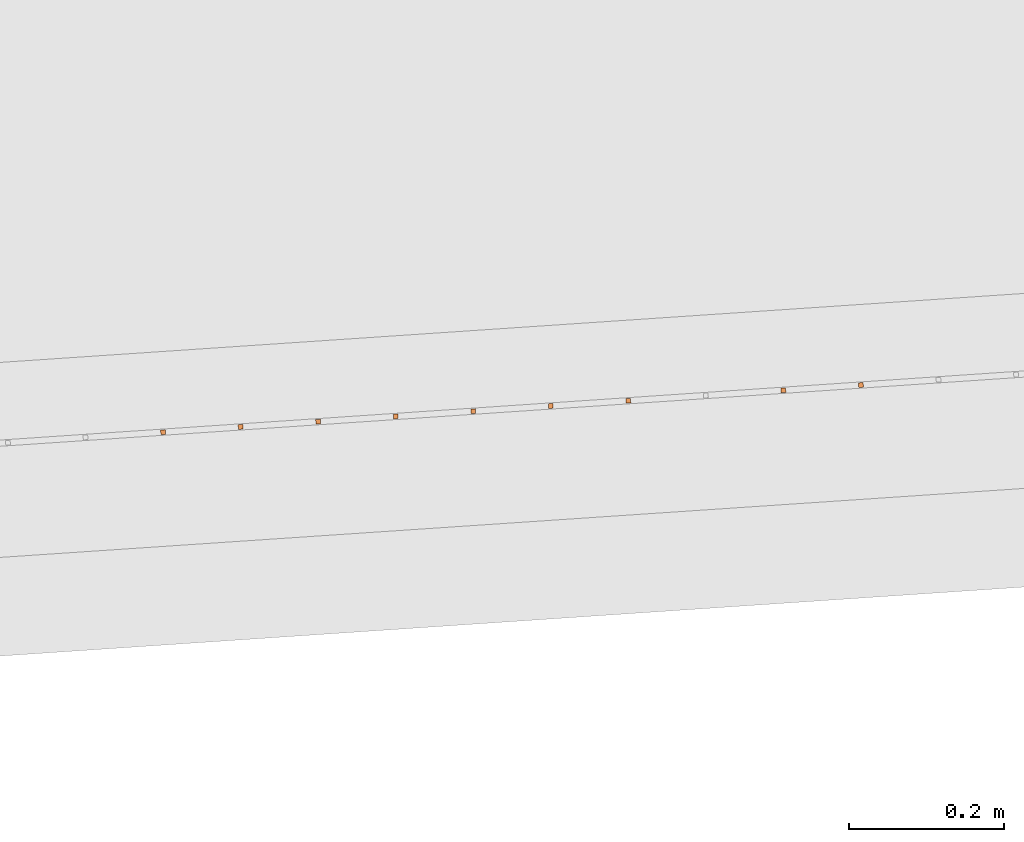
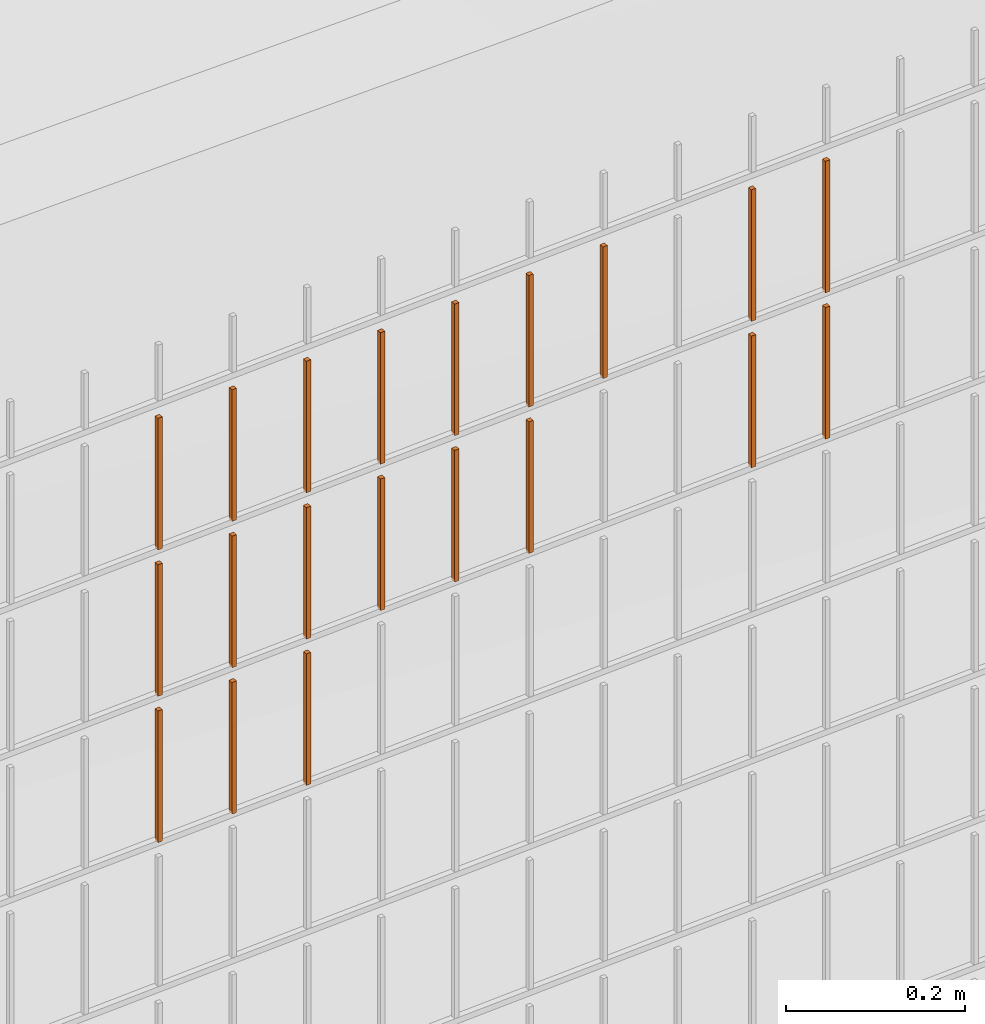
# One storey, part 371 of 1809: 20 proxies, 1 element without a shape of its own.
"""IFC2X3 building model written with IfcOpenShell, lengths in millimetres."""

from ifc_helpers import new_model, entity, si_unit, converted_unit, derived_unit, money_unit, direction, frame, origin_with_axes, place, context, subcontext, project, spatial, faceted_brep, source, transform, mapped, material, type_object, element, aggregate, save


model = new_model("IFC2X3")

# Units and contexts
model_context = context("Model", 3, precision=0.01, world=origin_with_axes(), true_north=direction((0.0, 1.0)))
body_context = subcontext(model_context, "Body", "Model", "MODEL_VIEW")
ifc_project = project(units=[si_unit("LENGTHUNIT", "METRE", prefix="MILLI"), si_unit("AREAUNIT", "SQUARE_METRE"), si_unit("VOLUMEUNIT", "CUBIC_METRE"), converted_unit("PLANEANGLEUNIT", "DEGREE", entity("IfcPlaneAngleMeasure", 0.0174532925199), si_unit("PLANEANGLEUNIT", "RADIAN"), dimensions=[0, 0, 0, 0, 0, 0, 0]), si_unit("SOLIDANGLEUNIT", "STERADIAN"), money_unit("EUR"), converted_unit("TIMEUNIT", "Year", entity("IfcTimeMeasure", 31556926.0), si_unit("TIMEUNIT", "SECOND"), dimensions=[0, 0, 1, 0, 0, 0, 0]), si_unit("MASSUNIT", "GRAM", prefix="KILO"), si_unit("THERMODYNAMICTEMPERATUREUNIT", "DEGREE_CELSIUS"), si_unit("LUMINOUSINTENSITYUNIT", "LUMEN"), si_unit("ENERGYUNIT", "JOULE", prefix="MEGA"), derived_unit("THERMALCONDUCTANCEUNIT", [(si_unit("POWERUNIT", "WATT"), 1), (si_unit("LENGTHUNIT", "METRE"), -1), (si_unit("THERMODYNAMICTEMPERATUREUNIT", "KELVIN"), -1)]), derived_unit("SPECIFICHEATCAPACITYUNIT", [(si_unit("ENERGYUNIT", "JOULE"), 1), (si_unit("MASSUNIT", "GRAM", prefix="KILO"), -1), (si_unit("THERMODYNAMICTEMPERATUREUNIT", "KELVIN"), -1)]), derived_unit("MASSDENSITYUNIT", [(si_unit("MASSUNIT", "GRAM", prefix="KILO"), 1), (si_unit("VOLUMEUNIT", "CUBIC_METRE"), -1)])], contexts=[model_context])

# Site, building, storey
site_placement = place(None, origin_with_axes())
site = spatial("IfcSite", under=ifc_project, at=site_placement, Name="Politse- ja Piirivalveameti ning Päästeameti ühishoone", CompositionType="ELEMENT")
building_placement = place(site_placement, origin_with_axes())
building = spatial("IfcBuilding", under=site, at=building_placement, Name="Politse- ja Piirivalveameti ning Päästeameti ühishoone", CompositionType="ELEMENT")
storey_placement = place(building_placement, origin_with_axes())
storey = spatial("IfcBuildingStorey", under=building, at=storey_placement, Name="Esimene korrus", CompositionType="ELEMENT", Elevation=0.0)

# Proxies
building_element_proxy_type_1 = type_object("IfcBuildingElementProxyType", Name="Railing Type", PredefinedType="NOTDEFINED")
proxy_1_placement = place(storey_placement, frame((89252.001212, -29183.4766571, 203.661247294), z_axis=(0.0, 0.0, 1.0), x_axis=(1.0, 0.0, 0.0)))
proxy_1 = element("IfcBuildingElementProxy", 1, at=proxy_1_placement, inside=storey, type_object=building_element_proxy_type_1, Name="PIIRDEAED")
ifc_material = material(Name="ET-03_Raud")
building_element_proxy_type_2 = type_object("IfcBuildingElementProxyType", Name="IfcBuildingElementProxy", PredefinedType="NOTDEFINED")
shared_shape_1 = source(origin_with_axes(), body_context, "Body", "Brep", [
    faceted_brep([(3.0, 3.0, -0.000752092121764), (-3.0, 3.0, -0.000752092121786), (-3.0, 3.0, 179.99926046), (3.0, 3.0, 179.99926046), (3.0, -3.0, 0.000752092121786), (-3.0, -3.0, 0.000752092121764), (-3.0, -3.0, 180.000764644), (3.0, -3.0, 180.000764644)], [[[0, 1, 2, 3]], [[0, 4, 5, 1]], [[1, 5, 6, 2]], [[3, 2, 6, 7]], [[4, 0, 3, 7]], [[5, 4, 7, 6]]]),
])
proxy_2_placement = place(proxy_1_placement, frame((-21078.6570831, -18721.5584996, 1421.93798032), z_axis=(0.0, 0.0, 1.0), x_axis=(1.0, 0.0, 0.0)))
proxy_2 = element("IfcBuildingElementProxy", 2, at=proxy_2_placement, type_object=building_element_proxy_type_2, material=ifc_material, Name="BALUSTER - 001", context=body_context, shape_type="MappedRepresentation", body=[
    mapped(shared_shape_1, transform((0.0, 0.0, 0.0), x_axis=(-0.0673926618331, 0.997726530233, 0.0), y_axis=(-0.997726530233, -0.0673926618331, 0.0), z_axis=(0.0, 0.0, 1.0))),
])
shared_shape_2 = source(origin_with_axes(), body_context, "Body", "Brep", [
    faceted_brep([(3.0, 3.0, -0.000752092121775), (-3.0, 3.0, -0.000752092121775), (-3.0, 3.0, 179.99926046), (3.0, 3.0, 179.99926046), (3.0, -3.0, 0.000752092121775), (-3.0, -3.0, 0.000752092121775), (-3.0, -3.0, 180.000764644), (3.0, -3.0, 180.000764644)], [[[0, 1, 2, 3]], [[0, 4, 5, 1]], [[1, 5, 6, 2]], [[3, 2, 6, 7]], [[4, 0, 3, 7]], [[5, 4, 7, 6]]]),
])
proxy_3_placement = place(proxy_1_placement, frame((-20879.1117771, -18708.0799672, 1821.98811979), z_axis=(0.0, 0.0, 1.0), x_axis=(1.0, 0.0, 0.0)))
proxy_3 = element("IfcBuildingElementProxy", 3, at=proxy_3_placement, type_object=building_element_proxy_type_2, material=ifc_material, Name="BALUSTER - 001", context=body_context, shape_type="MappedRepresentation", body=[
    mapped(shared_shape_2, transform((0.0, 0.0, 0.0), x_axis=(-0.0673926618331, 0.997726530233, 0.0), y_axis=(-0.997726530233, -0.0673926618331, 0.0), z_axis=(0.0, 0.0, 1.0))),
])
shared_shape_3 = source(origin_with_axes(), body_context, "Body", "Brep", [
    faceted_brep([(3.0, 3.0, -0.000752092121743), (-3.0, 3.0, -0.000752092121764), (-3.0, 3.0, 179.99926046), (3.0, 3.0, 179.99926046), (3.0, -3.0, 0.000752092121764), (-3.0, -3.0, 0.000752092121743), (-3.0, -3.0, 180.000764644), (3.0, -3.0, 180.000764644)], [[[0, 1, 2, 3]], [[0, 4, 5, 1]], [[1, 5, 6, 2]], [[3, 2, 6, 7]], [[4, 0, 3, 7]], [[5, 4, 7, 6]]]),
])
proxy_4_placement = place(proxy_1_placement, frame((-20280.4758589, -18667.6443701, 1822.13853822), z_axis=(0.0, 0.0, 1.0), x_axis=(1.0, 0.0, 0.0)))
proxy_4 = element("IfcBuildingElementProxy", 4, at=proxy_4_placement, type_object=building_element_proxy_type_2, material=ifc_material, Name="BALUSTER - 001", context=body_context, shape_type="MappedRepresentation", body=[
    mapped(shared_shape_3, transform((0.0, 0.0, 0.0), x_axis=(-0.0673926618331, 0.997726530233, 0.0), y_axis=(-0.997726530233, -0.0673926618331, 0.0), z_axis=(0.0, 0.0, 1.0))),
])
shared_shape_4 = source(origin_with_axes(), body_context, "Body", "Brep", [
    faceted_brep([(3.0, 3.0, -0.000752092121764), (-3.0, 3.0, -0.000752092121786), (-3.0, 3.0, 179.99926046), (3.0, 3.0, 179.99926046), (3.0, -3.0, 0.000752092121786), (-3.0, -3.0, 0.000752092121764), (-3.0, -3.0, 180.000764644), (3.0, -3.0, 180.000764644)], [[[0, 1, 2, 3]], [[0, 4, 5, 1]], [[1, 5, 6, 2]], [[3, 2, 6, 7]], [[4, 0, 3, 7]], [[5, 4, 7, 6]]]),
])
proxy_5_placement = place(proxy_1_placement, frame((-21078.6570831, -18721.5584996, 1821.93798032), z_axis=(0.0, 0.0, 1.0), x_axis=(1.0, 0.0, 0.0)))
proxy_5 = element("IfcBuildingElementProxy", 5, at=proxy_5_placement, type_object=building_element_proxy_type_2, material=ifc_material, Name="BALUSTER - 001", context=body_context, shape_type="MappedRepresentation", body=[
    mapped(shared_shape_4, transform((0.0, 0.0, 0.0), x_axis=(-0.0673926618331, 0.997726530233, 0.0), y_axis=(-0.997726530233, -0.0673926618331, 0.0), z_axis=(0.0, 0.0, 1.0))),
])
shared_shape_5 = source(origin_with_axes(), body_context, "Body", "Brep", [
    faceted_brep([(3.0, 3.0, -0.000752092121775), (-3.0, 3.0, -0.000752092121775), (-3.0, 3.0, 179.99926046), (3.0, 3.0, 179.99926046), (3.0, -3.0, 0.000752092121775), (-3.0, -3.0, 0.000752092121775), (-3.0, -3.0, 180.000764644), (3.0, -3.0, 180.000764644)], [[[0, 1, 2, 3]], [[0, 4, 5, 1]], [[1, 5, 6, 2]], [[3, 2, 6, 7]], [[4, 0, 3, 7]], [[5, 4, 7, 6]]]),
])
proxy_6_placement = place(proxy_1_placement, frame((-20480.021165, -18681.1229025, 1822.08839874), z_axis=(0.0, 0.0, 1.0), x_axis=(1.0, 0.0, 0.0)))
proxy_6 = element("IfcBuildingElementProxy", 6, at=proxy_6_placement, type_object=building_element_proxy_type_2, material=ifc_material, Name="BALUSTER - 001", context=body_context, shape_type="MappedRepresentation", body=[
    mapped(shared_shape_5, transform((0.0, 0.0, 0.0), x_axis=(-0.0673926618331, 0.997726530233, 0.0), y_axis=(-0.997726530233, -0.0673926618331, 0.0), z_axis=(0.0, 0.0, 1.0))),
])
shared_shape_6 = source(origin_with_axes(), body_context, "Body", "Brep", [
    faceted_brep([(3.0, 3.0, -0.000752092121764), (-3.0, 3.0, -0.000752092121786), (-3.0, 3.0, 179.99926046), (3.0, 3.0, 179.99926046), (3.0, -3.0, 0.000752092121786), (-3.0, -3.0, 0.000752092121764), (-3.0, -3.0, 180.000764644), (3.0, -3.0, 180.000764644)], [[[0, 1, 2, 3]], [[0, 4, 5, 1]], [[1, 5, 6, 2]], [[3, 2, 6, 7]], [[4, 0, 3, 7]], [[5, 4, 7, 6]]]),
])
proxy_7_placement = place(proxy_1_placement, frame((-21078.6570831, -18721.5584996, 1621.93798032), z_axis=(0.0, 0.0, 1.0), x_axis=(1.0, 0.0, 0.0)))
proxy_7 = element("IfcBuildingElementProxy", 7, at=proxy_7_placement, type_object=building_element_proxy_type_2, material=ifc_material, Name="BALUSTER - 001", context=body_context, shape_type="MappedRepresentation", body=[
    mapped(shared_shape_6, transform((0.0, 0.0, 0.0), x_axis=(-0.0673926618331, 0.997726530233, 0.0), y_axis=(-0.997726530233, -0.0673926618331, 0.0), z_axis=(0.0, 0.0, 1.0))),
])
shared_shape_7 = source(origin_with_axes(), body_context, "Body", "Brep", [
    faceted_brep([(3.0, 3.0, -0.000752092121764), (-3.0, 3.0, -0.000752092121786), (-3.0, 3.0, 179.99926046), (3.0, 3.0, 179.99926046), (3.0, -3.0, 0.000752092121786), (-3.0, -3.0, 0.000752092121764), (-3.0, -3.0, 180.000764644), (3.0, -3.0, 180.000764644)], [[[0, 1, 2, 3]], [[0, 4, 5, 1]], [[1, 5, 6, 2]], [[3, 2, 6, 7]], [[4, 0, 3, 7]], [[5, 4, 7, 6]]]),
])
proxy_8_placement = place(proxy_1_placement, frame((-20978.8844301, -18714.8192334, 1421.96305005), z_axis=(0.0, 0.0, 1.0), x_axis=(1.0, 0.0, 0.0)))
proxy_8 = element("IfcBuildingElementProxy", 8, at=proxy_8_placement, type_object=building_element_proxy_type_2, material=ifc_material, Name="BALUSTER - 001", context=body_context, shape_type="MappedRepresentation", body=[
    mapped(shared_shape_7, transform((0.0, 0.0, 0.0), x_axis=(-0.0673926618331, 0.997726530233, 0.0), y_axis=(-0.997726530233, -0.0673926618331, 0.0), z_axis=(0.0, 0.0, 1.0))),
])
proxy_9_placement = place(proxy_1_placement, frame((-20978.8844301, -18714.8192334, 1621.96305005), z_axis=(0.0, 0.0, 1.0), x_axis=(1.0, 0.0, 0.0)))
proxy_9 = element("IfcBuildingElementProxy", 9, at=proxy_9_placement, type_object=building_element_proxy_type_2, material=ifc_material, Name="BALUSTER - 001", context=body_context, shape_type="MappedRepresentation", body=[
    mapped(shared_shape_7, transform((0.0, 0.0, 0.0), x_axis=(-0.0673926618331, 0.997726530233, 0.0), y_axis=(-0.997726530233, -0.0673926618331, 0.0), z_axis=(0.0, 0.0, 1.0))),
])
shared_shape_8 = source(origin_with_axes(), body_context, "Body", "Brep", [
    faceted_brep([(3.0, 3.0, -0.000752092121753), (-3.0, 3.0, -0.000752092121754), (-3.0, 3.0, 179.99926046), (3.0, 3.0, 179.99926046), (3.0, -3.0, 0.000752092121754), (-3.0, -3.0, 0.000752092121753), (-3.0, -3.0, 180.000764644), (3.0, -3.0, 180.000764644)], [[[0, 1, 2, 3]], [[0, 4, 5, 1]], [[1, 5, 6, 2]], [[3, 2, 6, 7]], [[4, 0, 3, 7]], [[5, 4, 7, 6]]]),
])
proxy_10_placement = place(proxy_1_placement, frame((-20779.339124, -18701.340701, 1622.01318953), z_axis=(0.0, 0.0, 1.0), x_axis=(1.0, 0.0, 0.0)))
proxy_10 = element("IfcBuildingElementProxy", 10, at=proxy_10_placement, type_object=building_element_proxy_type_2, material=ifc_material, Name="BALUSTER - 001", context=body_context, shape_type="MappedRepresentation", body=[
    mapped(shared_shape_8, transform((0.0, 0.0, 0.0), x_axis=(-0.0673926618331, 0.997726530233, 0.0), y_axis=(-0.997726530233, -0.0673926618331, 0.0), z_axis=(0.0, 0.0, 1.0))),
])
shared_shape_9 = source(origin_with_axes(), body_context, "Body", "Brep", [
    faceted_brep([(3.0, 3.0, -0.000752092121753), (-3.0, 3.0, -0.000752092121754), (-3.0, 3.0, 179.99926046), (3.0, 3.0, 179.99926046), (3.0, -3.0, 0.000752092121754), (-3.0, -3.0, 0.000752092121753), (-3.0, -3.0, 180.000764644), (3.0, -3.0, 180.000764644)], [[[0, 1, 2, 3]], [[0, 4, 5, 1]], [[1, 5, 6, 2]], [[3, 2, 6, 7]], [[4, 0, 3, 7]], [[5, 4, 7, 6]]]),
])
proxy_11_placement = place(proxy_1_placement, frame((-20779.339124, -18701.340701, 1822.01318953), z_axis=(0.0, 0.0, 1.0), x_axis=(1.0, 0.0, 0.0)))
proxy_11 = element("IfcBuildingElementProxy", 11, at=proxy_11_placement, type_object=building_element_proxy_type_2, material=ifc_material, Name="BALUSTER - 001", context=body_context, shape_type="MappedRepresentation", body=[
    mapped(shared_shape_9, transform((0.0, 0.0, 0.0), x_axis=(-0.0673926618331, 0.997726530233, 0.0), y_axis=(-0.997726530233, -0.0673926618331, 0.0), z_axis=(0.0, 0.0, 1.0))),
])
shared_shape_10 = source(origin_with_axes(), body_context, "Body", "Brep", [
    faceted_brep([(3.0, 3.0, -0.000752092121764), (-3.0, 3.0, -0.000752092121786), (-3.0, 3.0, 179.99926046), (3.0, 3.0, 179.99926046), (3.0, -3.0, 0.000752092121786), (-3.0, -3.0, 0.000752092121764), (-3.0, -3.0, 180.000764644), (3.0, -3.0, 180.000764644)], [[[0, 1, 2, 3]], [[0, 4, 5, 1]], [[1, 5, 6, 2]], [[3, 2, 6, 7]], [[4, 0, 3, 7]], [[5, 4, 7, 6]]]),
])
proxy_12_placement = place(proxy_1_placement, frame((-20978.8844301, -18714.8192334, 1821.96305005), z_axis=(0.0, 0.0, 1.0), x_axis=(1.0, 0.0, 0.0)))
proxy_12 = element("IfcBuildingElementProxy", 12, at=proxy_12_placement, type_object=building_element_proxy_type_2, material=ifc_material, Name="BALUSTER - 001", context=body_context, shape_type="MappedRepresentation", body=[
    mapped(shared_shape_10, transform((0.0, 0.0, 0.0), x_axis=(-0.0673926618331, 0.997726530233, 0.0), y_axis=(-0.997726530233, -0.0673926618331, 0.0), z_axis=(0.0, 0.0, 1.0))),
])
shared_shape_11 = source(origin_with_axes(), body_context, "Body", "Brep", [
    faceted_brep([(3.0, 3.0, -0.000752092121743), (-3.0, 3.0, -0.000752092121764), (-3.0, 3.0, 179.99926046), (3.0, 3.0, 179.99926046), (3.0, -3.0, 0.000752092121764), (-3.0, -3.0, 0.000752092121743), (-3.0, -3.0, 180.000764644), (3.0, -3.0, 180.000764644)], [[[0, 1, 2, 3]], [[0, 4, 5, 1]], [[1, 5, 6, 2]], [[3, 2, 6, 7]], [[4, 0, 3, 7]], [[5, 4, 7, 6]]]),
])
proxy_13_placement = place(proxy_1_placement, frame((-20180.7032059, -18660.9051039, 1622.16360795), z_axis=(0.0, 0.0, 1.0), x_axis=(1.0, 0.0, 0.0)))
proxy_13 = element("IfcBuildingElementProxy", 13, at=proxy_13_placement, type_object=building_element_proxy_type_2, material=ifc_material, Name="BALUSTER - 001", context=body_context, shape_type="MappedRepresentation", body=[
    mapped(shared_shape_11, transform((0.0, 0.0, 0.0), x_axis=(-0.0673926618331, 0.997726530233, 0.0), y_axis=(-0.997726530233, -0.0673926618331, 0.0), z_axis=(0.0, 0.0, 1.0))),
])
shared_shape_12 = source(origin_with_axes(), body_context, "Body", "Brep", [
    faceted_brep([(3.0, 3.0, -0.000752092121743), (-3.0, 3.0, -0.000752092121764), (-3.0, 3.0, 179.99926046), (3.0, 3.0, 179.99926046), (3.0, -3.0, 0.000752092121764), (-3.0, -3.0, 0.000752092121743), (-3.0, -3.0, 180.000764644), (3.0, -3.0, 180.000764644)], [[[0, 1, 2, 3]], [[0, 4, 5, 1]], [[1, 5, 6, 2]], [[3, 2, 6, 7]], [[4, 0, 3, 7]], [[5, 4, 7, 6]]]),
])
proxy_14_placement = place(proxy_1_placement, frame((-20180.7032059, -18660.9051039, 1822.16360795), z_axis=(0.0, 0.0, 1.0), x_axis=(1.0, 0.0, 0.0)))
proxy_14 = element("IfcBuildingElementProxy", 14, at=proxy_14_placement, type_object=building_element_proxy_type_2, material=ifc_material, Name="BALUSTER - 001", context=body_context, shape_type="MappedRepresentation", body=[
    mapped(shared_shape_12, transform((0.0, 0.0, 0.0), x_axis=(-0.0673926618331, 0.997726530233, 0.0), y_axis=(-0.997726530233, -0.0673926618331, 0.0), z_axis=(0.0, 0.0, 1.0))),
])
shared_shape_13 = source(origin_with_axes(), body_context, "Body", "Brep", [
    faceted_brep([(3.0, 3.0, -0.000752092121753), (-3.0, 3.0, -0.000752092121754), (-3.0, 3.0, 179.99926046), (3.0, 3.0, 179.99926046), (3.0, -3.0, 0.000752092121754), (-3.0, -3.0, 0.000752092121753), (-3.0, -3.0, 180.000764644), (3.0, -3.0, 180.000764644)], [[[0, 1, 2, 3]], [[0, 4, 5, 1]], [[1, 5, 6, 2]], [[3, 2, 6, 7]], [[4, 0, 3, 7]], [[5, 4, 7, 6]]]),
])
proxy_15_placement = place(proxy_1_placement, frame((-20679.566471, -18694.6014349, 1822.03825927), z_axis=(0.0, 0.0, 1.0), x_axis=(1.0, 0.0, 0.0)))
proxy_15 = element("IfcBuildingElementProxy", 15, at=proxy_15_placement, type_object=building_element_proxy_type_2, material=ifc_material, Name="BALUSTER - 001", context=body_context, shape_type="MappedRepresentation", body=[
    mapped(shared_shape_13, transform((0.0, 0.0, 0.0), x_axis=(-0.0673926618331, 0.997726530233, 0.0), y_axis=(-0.997726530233, -0.0673926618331, 0.0), z_axis=(0.0, 0.0, 1.0))),
])
shared_shape_14 = source(origin_with_axes(), body_context, "Body", "Brep", [
    faceted_brep([(3.0, 3.0, -0.000752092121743), (-3.0, 3.0, -0.000752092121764), (-3.0, 3.0, 179.99926046), (3.0, 3.0, 179.99926046), (3.0, -3.0, 0.000752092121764), (-3.0, -3.0, 0.000752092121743), (-3.0, -3.0, 180.000764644), (3.0, -3.0, 180.000764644)], [[[0, 1, 2, 3]], [[0, 4, 5, 1]], [[1, 5, 6, 2]], [[3, 2, 6, 7]], [[4, 0, 3, 7]], [[5, 4, 7, 6]]]),
])
proxy_16_placement = place(proxy_1_placement, frame((-20280.4758589, -18667.6443701, 1622.13853822), z_axis=(0.0, 0.0, 1.0), x_axis=(1.0, 0.0, 0.0)))
proxy_16 = element("IfcBuildingElementProxy", 16, at=proxy_16_placement, type_object=building_element_proxy_type_2, material=ifc_material, Name="BALUSTER - 001", context=body_context, shape_type="MappedRepresentation", body=[
    mapped(shared_shape_14, transform((0.0, 0.0, 0.0), x_axis=(-0.0673926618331, 0.997726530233, 0.0), y_axis=(-0.997726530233, -0.0673926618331, 0.0), z_axis=(0.0, 0.0, 1.0))),
])
shared_shape_15 = source(origin_with_axes(), body_context, "Body", "Brep", [
    faceted_brep([(3.0, 3.0, -0.000752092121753), (-3.0, 3.0, -0.000752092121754), (-3.0, 3.0, 179.99926046), (3.0, 3.0, 179.99926046), (3.0, -3.0, 0.000752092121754), (-3.0, -3.0, 0.000752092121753), (-3.0, -3.0, 180.000764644), (3.0, -3.0, 180.000764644)], [[[0, 1, 2, 3]], [[0, 4, 5, 1]], [[1, 5, 6, 2]], [[3, 2, 6, 7]], [[4, 0, 3, 7]], [[5, 4, 7, 6]]]),
])
proxy_17_placement = place(proxy_1_placement, frame((-20679.566471, -18694.6014349, 1622.03825927), z_axis=(0.0, 0.0, 1.0), x_axis=(1.0, 0.0, 0.0)))
proxy_17 = element("IfcBuildingElementProxy", 17, at=proxy_17_placement, type_object=building_element_proxy_type_2, material=ifc_material, Name="BALUSTER - 001", context=body_context, shape_type="MappedRepresentation", body=[
    mapped(shared_shape_15, transform((0.0, 0.0, 0.0), x_axis=(-0.0673926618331, 0.997726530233, 0.0), y_axis=(-0.997726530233, -0.0673926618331, 0.0), z_axis=(0.0, 0.0, 1.0))),
])
shared_shape_16 = source(origin_with_axes(), body_context, "Body", "Brep", [
    faceted_brep([(3.0, 3.0, -0.000752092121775), (-3.0, 3.0, -0.000752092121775), (-3.0, 3.0, 179.99926046), (3.0, 3.0, 179.99926046), (3.0, -3.0, 0.000752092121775), (-3.0, -3.0, 0.000752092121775), (-3.0, -3.0, 180.000764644), (3.0, -3.0, 180.000764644)], [[[0, 1, 2, 3]], [[0, 4, 5, 1]], [[1, 5, 6, 2]], [[3, 2, 6, 7]], [[4, 0, 3, 7]], [[5, 4, 7, 6]]]),
])
proxy_18_placement = place(proxy_1_placement, frame((-20579.793818, -18687.8621687, 1822.063329), z_axis=(0.0, 0.0, 1.0), x_axis=(1.0, 0.0, 0.0)))
proxy_18 = element("IfcBuildingElementProxy", 18, at=proxy_18_placement, type_object=building_element_proxy_type_2, material=ifc_material, Name="BALUSTER - 001", context=body_context, shape_type="MappedRepresentation", body=[
    mapped(shared_shape_16, transform((0.0, 0.0, 0.0), x_axis=(-0.0673926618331, 0.997726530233, 0.0), y_axis=(-0.997726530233, -0.0673926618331, 0.0), z_axis=(0.0, 0.0, 1.0))),
])
shared_shape_17 = source(origin_with_axes(), body_context, "Body", "Brep", [
    faceted_brep([(3.0, 3.0, -0.000752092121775), (-3.0, 3.0, -0.000752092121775), (-3.0, 3.0, 179.99926046), (3.0, 3.0, 179.99926046), (3.0, -3.0, 0.000752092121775), (-3.0, -3.0, 0.000752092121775), (-3.0, -3.0, 180.000764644), (3.0, -3.0, 180.000764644)], [[[0, 1, 2, 3]], [[0, 4, 5, 1]], [[1, 5, 6, 2]], [[3, 2, 6, 7]], [[4, 0, 3, 7]], [[5, 4, 7, 6]]]),
])
proxy_19_placement = place(proxy_1_placement, frame((-20579.793818, -18687.8621687, 1622.063329), z_axis=(0.0, 0.0, 1.0), x_axis=(1.0, 0.0, 0.0)))
proxy_19 = element("IfcBuildingElementProxy", 19, at=proxy_19_placement, type_object=building_element_proxy_type_2, material=ifc_material, Name="BALUSTER - 001", context=body_context, shape_type="MappedRepresentation", body=[
    mapped(shared_shape_17, transform((0.0, 0.0, 0.0), x_axis=(-0.0673926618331, 0.997726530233, 0.0), y_axis=(-0.997726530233, -0.0673926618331, 0.0), z_axis=(0.0, 0.0, 1.0))),
])
shared_shape_18 = source(origin_with_axes(), body_context, "Body", "Brep", [
    faceted_brep([(3.0, 3.0, -0.000752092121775), (-3.0, 3.0, -0.000752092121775), (-3.0, 3.0, 179.99926046), (3.0, 3.0, 179.99926046), (3.0, -3.0, 0.000752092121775), (-3.0, -3.0, 0.000752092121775), (-3.0, -3.0, 180.000764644), (3.0, -3.0, 180.000764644)], [[[0, 1, 2, 3]], [[0, 4, 5, 1]], [[1, 5, 6, 2]], [[3, 2, 6, 7]], [[4, 0, 3, 7]], [[5, 4, 7, 6]]]),
])
proxy_20_placement = place(proxy_1_placement, frame((-20879.1117771, -18708.0799672, 1421.98811979), z_axis=(0.0, 0.0, 1.0), x_axis=(1.0, 0.0, 0.0)))
proxy_20 = element("IfcBuildingElementProxy", 20, at=proxy_20_placement, type_object=building_element_proxy_type_2, material=ifc_material, Name="BALUSTER - 001", context=body_context, shape_type="MappedRepresentation", body=[
    mapped(shared_shape_18, transform((0.0, 0.0, 0.0), x_axis=(-0.0673926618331, 0.997726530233, 0.0), y_axis=(-0.997726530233, -0.0673926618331, 0.0), z_axis=(0.0, 0.0, 1.0))),
])
proxy_21_placement = place(proxy_1_placement, frame((-20879.1117771, -18708.0799672, 1621.98811979), z_axis=(0.0, 0.0, 1.0), x_axis=(1.0, 0.0, 0.0)))
proxy_21 = element("IfcBuildingElementProxy", 21, at=proxy_21_placement, type_object=building_element_proxy_type_2, material=ifc_material, Name="BALUSTER - 001", context=body_context, shape_type="MappedRepresentation", body=[
    mapped(shared_shape_18, transform((0.0, 0.0, 0.0), x_axis=(-0.0673926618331, 0.997726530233, 0.0), y_axis=(-0.997726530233, -0.0673926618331, 0.0), z_axis=(0.0, 0.0, 1.0))),
])
aggregate(proxy_1, [proxy_20, proxy_8, proxy_2, proxy_13, proxy_16, proxy_19, proxy_17, proxy_10, proxy_21, proxy_9, proxy_7, proxy_14, proxy_4, proxy_6, proxy_18, proxy_15, proxy_11, proxy_3, proxy_12, proxy_5])

save(model, "model.ifc")
